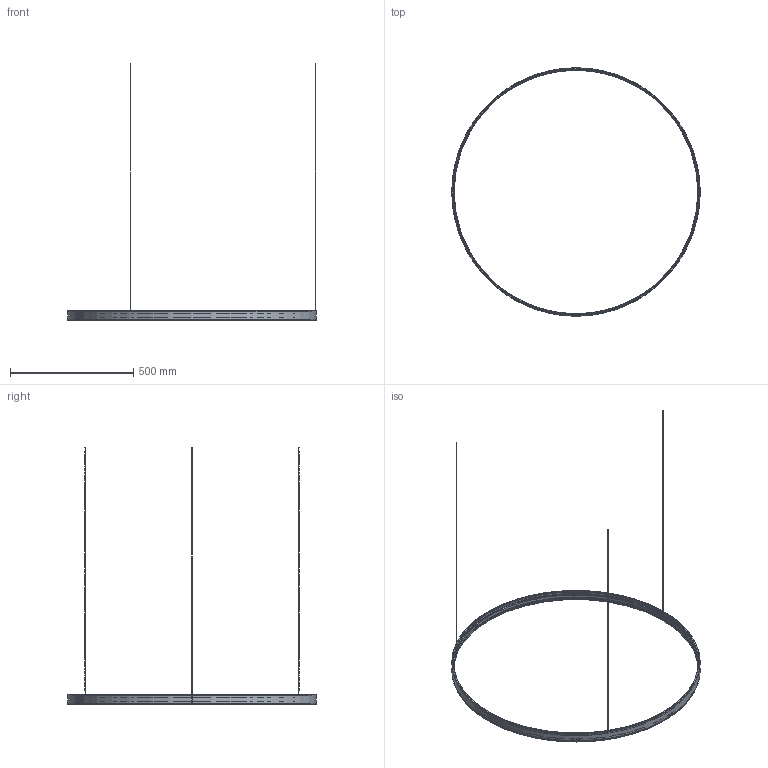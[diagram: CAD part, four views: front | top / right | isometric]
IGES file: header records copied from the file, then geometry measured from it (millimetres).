
Start section: SolidWorks IGES file using analytic representation for surfaces
Global section: file name: \\srvficheros\grupos\DISENYO\DESARROLLO DE PRODUCTO\_3D_WEB\LOOP-C3997270\LOOP-C3997270.IGS; native system: SolidWorks 2025; preprocessor: SolidWorks 2025; author: d.pons; date: 260114.115915; units: millimetre
Bounding box: 1006 x 1006 x 1040 mm (x, y, z)
Surface area: 595059.9 mm2 (no closed solid volume)
Topology: 0 solids, 0 shells, 58 faces, 1676 edges, 1676 vertices
Faces by surface type: revolution 36, bspline 22
